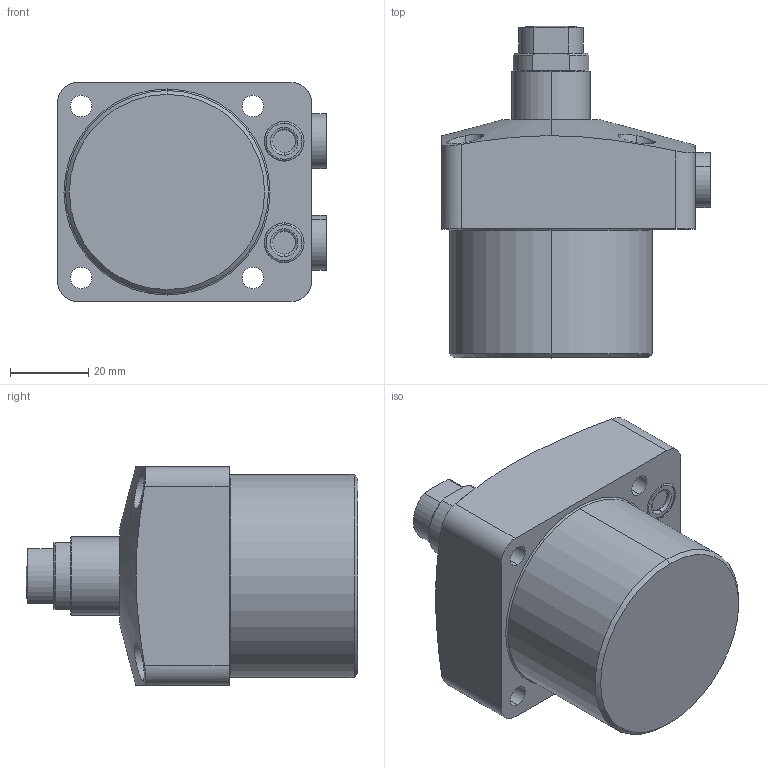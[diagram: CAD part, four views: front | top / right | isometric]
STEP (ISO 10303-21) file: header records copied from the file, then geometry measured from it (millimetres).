
FILE_DESCRIPTION(/* description */ (''),/* implementation_level */ '2;1');
FILE_NAME(/* name */ 'FSS10.stp',/* time_stamp */ '2022-11-16T13:57:15+08:00',/* author */ (''),/* organization */ (''),/* preprocessor_version */ 'ST-DEVELOPER v16.7',/* originating_system */ 'SIEMENS PLM Software NX 12.0',/* authorisation */ '');
FILE_SCHEMA (('AP203_CONFIGURATION_CONTROLLED_3D_DESIGN_OF_MECHANICAL_PARTS_AND_ASSEMBLIES_MIM_LF { 1 0 10303 403 2 1 2}'));
Length unit declared in the file: millimetre
Products named in the file (5): FSS10-02; FSS10-01; FSS10-03; FSS10-04; CST10_step
Assembly tree (5 placements, depth 2):
  CST10_step
    FSS10-04  x2
    FSS10-03
    FSS10-01
    FSS10-02
Bounding box: 68.8 x 85 x 56 mm (x, y, z)
Volume: 159358.7 mm3; surface area: 26392.5 mm2
Topology: 5 solids, 7 shells, 198 faces, 432 edges, 267 vertices
Faces by surface type: cylinder 82, plane 56, torus 30, cone 28, sphere 2
Entity records: 5633 total; most frequent: CARTESIAN_POINT 975, DIRECTION 948, ORIENTED_EDGE 780, AXIS2_PLACEMENT_3D 408, EDGE_CURVE 390, VERTEX_POINT 241, CIRCLE 224, EDGE_LOOP 209
